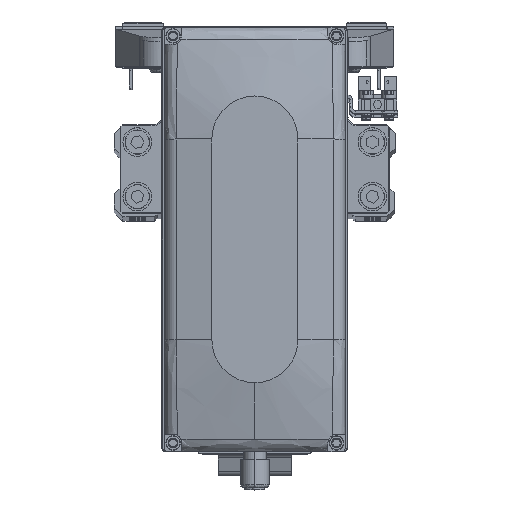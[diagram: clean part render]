
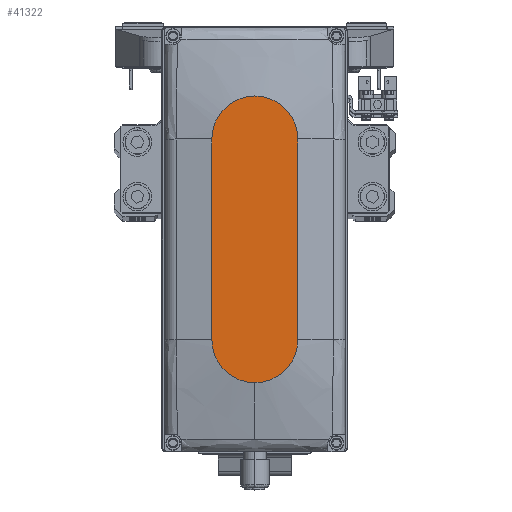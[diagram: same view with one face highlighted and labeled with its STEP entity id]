
A CAD part, top view. The second image highlights one B-rep face of the part: STEP entity #41322.
In plain terms, the highlighted planar face has unit normal (0, 0, 1).
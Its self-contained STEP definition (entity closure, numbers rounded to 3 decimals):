
#499 = CARTESIAN_POINT ( 'NONE',  ( 0., 0., 35. ) ) ;
#2107 = ORIENTED_EDGE ( 'NONE', *, *, #23695, .T. ) ;
#4582 = CARTESIAN_POINT ( 'NONE',  ( 35., 0., 35. ) ) ;
#5470 = CARTESIAN_POINT ( 'NONE',  ( 50., 0., 35. ) ) ;
#5524 = DIRECTION ( 'NONE',  ( 1., 0., 0. ) ) ;
#5584 = ORIENTED_EDGE ( 'NONE', *, *, #30318, .T. ) ;
#5836 = VERTEX_POINT ( 'NONE', #14690 ) ;
#5976 = CARTESIAN_POINT ( 'NONE',  ( -35., -15., 35. ) ) ;
#6552 = VECTOR ( 'NONE', #5524, 1000. ) ;
#7284 = AXIS2_PLACEMENT_3D ( 'NONE', #41297, #8398, #23035 ) ;
#8398 = DIRECTION ( 'NONE',  ( 0., 0., 1. ) ) ;
#9386 = EDGE_CURVE ( 'NONE', #36562, #34283, #11549, .T. ) ;
#10949 = VECTOR ( 'NONE', #40843, 1000. ) ;
#11549 = LINE ( 'NONE', #26190, #10949 ) ;
#12149 = EDGE_CURVE ( 'NONE', #39853, #5836, #23767, .T. ) ;
#12159 = DIRECTION ( 'NONE',  ( 0., 0., 1. ) ) ;
#12611 = VERTEX_POINT ( 'NONE', #5470 ) ;
#12948 = EDGE_CURVE ( 'NONE', #12611, #36562, #35758, .T. ) ;
#12988 = ORIENTED_EDGE ( 'NONE', *, *, #12948, .T. ) ;
#14690 = CARTESIAN_POINT ( 'NONE',  ( 35., -15., 35. ) ) ;
#15067 = AXIS2_PLACEMENT_3D ( 'NONE', #45066, #12159, #26798 ) ;
#15133 = ORIENTED_EDGE ( 'NONE', *, *, #9386, .T. ) ;
#15153 = DIRECTION ( 'NONE',  ( 0., 0., 1. ) ) ;
#17621 = ORIENTED_EDGE ( 'NONE', *, *, #12149, .T. ) ;
#18747 = FACE_OUTER_BOUND ( 'NONE', #37622, .T. ) ;
#19227 = DIRECTION ( 'NONE',  ( 0., 0., 1. ) ) ;
#23035 = DIRECTION ( 'NONE',  ( 1., 0., 0. ) ) ;
#23695 = EDGE_CURVE ( 'NONE', #5836, #12611, #47035, .T. ) ;
#23767 = LINE ( 'NONE', #38430, #6552 ) ;
#25081 = CARTESIAN_POINT ( 'NONE',  ( 35., 15., 35. ) ) ;
#26190 = CARTESIAN_POINT ( 'NONE',  ( -35., 15., 35. ) ) ;
#26290 = AXIS2_PLACEMENT_3D ( 'NONE', #4582, #19227, #33880 ) ;
#26798 = DIRECTION ( 'NONE',  ( 1., 0., 0. ) ) ;
#27979 = CIRCLE ( 'NONE', #7284, 15. ) ;
#29797 = DIRECTION ( 'NONE',  ( 1., 0., 0. ) ) ;
#30318 = EDGE_CURVE ( 'NONE', #34283, #39853, #27979, .T. ) ;
#31684 = CARTESIAN_POINT ( 'NONE',  ( -35., 15., 35. ) ) ;
#33398 = PLANE ( 'NONE',  #42173 ) ;
#33880 = DIRECTION ( 'NONE',  ( 1., 0., 0. ) ) ;
#34283 = VERTEX_POINT ( 'NONE', #31684 ) ;
#35758 = CIRCLE ( 'NONE', #15067, 15. ) ;
#36562 = VERTEX_POINT ( 'NONE', #25081 ) ;
#37622 = EDGE_LOOP ( 'NONE', ( #15133, #5584, #17621, #2107, #12988 ) ) ;
#38430 = CARTESIAN_POINT ( 'NONE',  ( -35., -15., 35. ) ) ;
#39853 = VERTEX_POINT ( 'NONE', #5976 ) ;
#40843 = DIRECTION ( 'NONE',  ( -1., 0., 0. ) ) ;
#41297 = CARTESIAN_POINT ( 'NONE',  ( -35., 0., 35. ) ) ;
#41322 = ADVANCED_FACE ( 'NONE', ( #18747 ), #33398, .T. ) ;
#42173 = AXIS2_PLACEMENT_3D ( 'NONE', #499, #15153, #29797 ) ;
#45066 = CARTESIAN_POINT ( 'NONE',  ( 35., 0., 35. ) ) ;
#47035 = CIRCLE ( 'NONE', #26290, 15. ) ;
